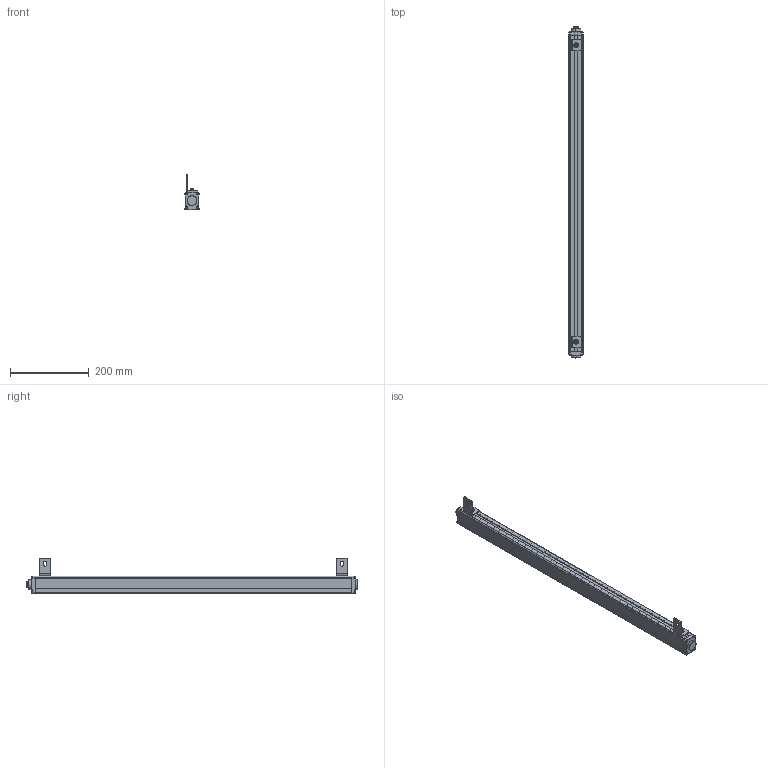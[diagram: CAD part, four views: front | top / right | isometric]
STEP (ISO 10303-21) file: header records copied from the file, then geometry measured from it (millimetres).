
FILE_DESCRIPTION((''),'2;1');
FILE_NAME('ESCL-00_ASM','2021-07-16T15:06:02',('18720616900'),(''),'CREO PARAMETRIC BY PTC INC, 2019010','CREO PARAMETRIC BY PTC INC, 2019010','');
FILE_SCHEMA(('CONFIG_CONTROL_DESIGN'));
Products named in the file (12): ESCL-00; ESCL-3-SOLID1000; ESCL-4-SOLID1000; HKCT1_-4-SOLID1; L10001; M6-8--0001; M6-1--00; M6-1-00; 00; M6-80001_ASM; L1--0001_ASM; ESCL-00_ASM
Assembly tree (12 placements, depth 4):
  ESCL-00_ASM
    ESCL-00
    ESCL-3-SOLID1000
    ESCL-4-SOLID1000
    HKCT1_-4-SOLID1
    L1--0001_ASM  x2
      L10001
      M6-80001_ASM
        M6-8--0001
        M6-1--00
        M6-1-00
        00
Bounding box: 36.1 x 845.1 x 91.11 mm (x, y, z)
Volume: 1220082.5 mm3; surface area: 184631.2 mm2
Topology: 14 solids, 14 shells, 629 faces, 1657 edges, 1078 vertices
Faces by surface type: plane 228, cylinder 210, cone 78, bspline 66, torus 47
Entity records: 76313 total; most frequent: CARTESIAN_POINT 64015, ORIENTED_EDGE 2688, DIRECTION 2299, EDGE_CURVE 1344, VERTEX_POINT 880, AXIS2_PLACEMENT_3D 824, VECTOR 651, LINE 651
